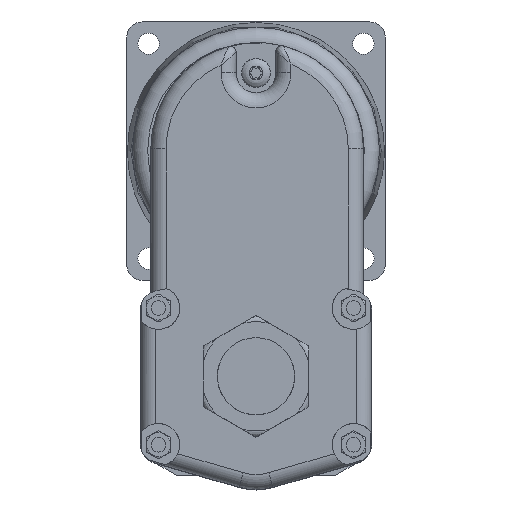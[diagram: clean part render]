
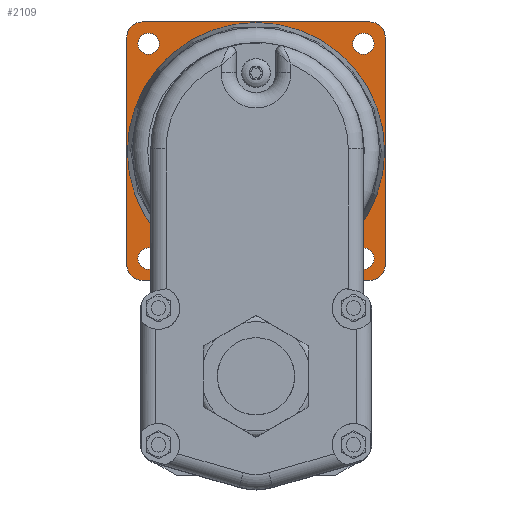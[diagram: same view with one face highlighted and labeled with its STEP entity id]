
A CAD part, top view. The second image highlights one B-rep face of the part: STEP entity #2109.
In plain terms, the highlighted planar face has unit normal (0, 0, 1).
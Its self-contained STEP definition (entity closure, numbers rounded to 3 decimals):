
#449 = VERTEX_POINT ( 'NONE', #4716 ) ;
#450 = VERTEX_POINT ( 'NONE', #4717 ) ;
#451 = VERTEX_POINT ( 'NONE', #4718 ) ;
#452 = VERTEX_POINT ( 'NONE', #4719 ) ;
#453 = VERTEX_POINT ( 'NONE', #4720 ) ;
#454 = VERTEX_POINT ( 'NONE', #4721 ) ;
#455 = VERTEX_POINT ( 'NONE', #4722 ) ;
#456 = VERTEX_POINT ( 'NONE', #4723 ) ;
#927 = EDGE_CURVE ( 'NONE', #11337, #11337, #3699, .T. ) ;
#1533 = EDGE_CURVE ( 'NONE', #453, #454, #8272, .T. ) ;
#1537 = EDGE_CURVE ( 'NONE', #11423, #11423, #8280, .T. ) ;
#1539 = EDGE_CURVE ( 'NONE', #451, #452, #8274, .T. ) ;
#1542 = EDGE_CURVE ( 'NONE', #11431, #11431, #8286, .T. ) ;
#1543 = EDGE_CURVE ( 'NONE', #454, #451, #8288, .T. ) ;
#1544 = EDGE_CURVE ( 'NONE', #452, #450, #8290, .T. ) ;
#1545 = EDGE_CURVE ( 'NONE', #450, #449, #8279, .T. ) ;
#1546 = EDGE_CURVE ( 'NONE', #449, #455, #8292, .T. ) ;
#1547 = EDGE_CURVE ( 'NONE', #455, #456, #8278, .T. ) ;
#1548 = EDGE_CURVE ( 'NONE', #456, #453, #8295, .T. ) ;
#1550 = EDGE_CURVE ( 'NONE', #11433, #11433, #8297, .T. ) ;
#1552 = EDGE_CURVE ( 'NONE', #11435, #11435, #8300, .T. ) ;
#1793 = AXIS2_PLACEMENT_3D ( 'NONE', #4836, #4838, #4839 ) ;
#2109 = ADVANCED_FACE ( 'NONE', ( #9034, #9037, #9041, #9043, #9038, #9036 ), #10866, .F. ) ;
#3136 = ORIENTED_EDGE ( 'NONE', *, *, #1537, .F. ) ;
#3137 = ORIENTED_EDGE ( 'NONE', *, *, #1542, .F. ) ;
#3138 = ORIENTED_EDGE ( 'NONE', *, *, #1533, .T. ) ;
#3139 = ORIENTED_EDGE ( 'NONE', *, *, #1543, .T. ) ;
#3140 = ORIENTED_EDGE ( 'NONE', *, *, #1539, .T. ) ;
#3141 = ORIENTED_EDGE ( 'NONE', *, *, #1544, .T. ) ;
#3142 = ORIENTED_EDGE ( 'NONE', *, *, #1545, .T. ) ;
#3143 = ORIENTED_EDGE ( 'NONE', *, *, #1546, .T. ) ;
#3144 = ORIENTED_EDGE ( 'NONE', *, *, #1547, .T. ) ;
#3145 = ORIENTED_EDGE ( 'NONE', *, *, #1548, .T. ) ;
#3146 = ORIENTED_EDGE ( 'NONE', *, *, #1550, .F. ) ;
#3147 = ORIENTED_EDGE ( 'NONE', *, *, #1552, .F. ) ;
#3148 = ORIENTED_EDGE ( 'NONE', *, *, #927, .T. ) ;
#3699 = CIRCLE ( 'NONE', #1793, 42.331 ) ;
#4716 = CARTESIAN_POINT ( 'NONE',  ( 42.5, 111.9, -11.3 ) ) ;
#4717 = CARTESIAN_POINT ( 'NONE',  ( 42.5, 36.9, -11.3 ) ) ;
#4718 = CARTESIAN_POINT ( 'NONE',  ( -37.5, 31.9, -11.3 ) ) ;
#4719 = CARTESIAN_POINT ( 'NONE',  ( 37.5, 31.9, -11.3 ) ) ;
#4720 = CARTESIAN_POINT ( 'NONE',  ( -42.5, 111.9, -11.3 ) ) ;
#4721 = CARTESIAN_POINT ( 'NONE',  ( -42.5, 36.9, -11.3 ) ) ;
#4722 = CARTESIAN_POINT ( 'NONE',  ( 37.5, 116.9, -11.3 ) ) ;
#4723 = CARTESIAN_POINT ( 'NONE',  ( -37.5, 116.9, -11.3 ) ) ;
#4836 = CARTESIAN_POINT ( 'NONE',  ( 0., 74.4, -11.3 ) ) ;
#4838 = DIRECTION ( 'NONE',  ( 0., 0., -1. ) ) ;
#4839 = DIRECTION ( 'NONE',  ( -1., 0., 0. ) ) ;
#6045 = AXIS2_PLACEMENT_3D ( 'NONE', #7630, #7631, #7632 ) ;
#6048 = AXIS2_PLACEMENT_3D ( 'NONE', #7591, #7592, #7593 ) ;
#6052 = AXIS2_PLACEMENT_3D ( 'NONE', #7605, #7612, #7613 ) ;
#6054 = AXIS2_PLACEMENT_3D ( 'NONE', #7583, #7606, #7607 ) ;
#6055 = AXIS2_PLACEMENT_3D ( 'NONE', #7602, #7609, #7610 ) ;
#6056 = AXIS2_PLACEMENT_3D ( 'NONE', #7608, #7617, #7618 ) ;
#6057 = AXIS2_PLACEMENT_3D ( 'NONE', #7611, #7622, #7623 ) ;
#6058 = AXIS2_PLACEMENT_3D ( 'NONE', #7616, #7626, #7627 ) ;
#6387 = AXIS2_PLACEMENT_3D ( 'NONE', #10864, #10870, #10871 ) ;
#7580 = CARTESIAN_POINT ( 'NONE',  ( -42.5, 116.9, -11.3 ) ) ;
#7581 = DIRECTION ( 'NONE',  ( 0., -1., 0. ) ) ;
#7583 = CARTESIAN_POINT ( 'NONE',  ( -35.355, 39.045, -11.3 ) ) ;
#7591 = CARTESIAN_POINT ( 'NONE',  ( 35.355, 109.755, -11.3 ) ) ;
#7592 = DIRECTION ( 'NONE',  ( 0., 0., 1. ) ) ;
#7593 = DIRECTION ( 'NONE',  ( 1., 0., 0. ) ) ;
#7597 = CARTESIAN_POINT ( 'NONE',  ( -42.5, 31.9, -11.3 ) ) ;
#7598 = DIRECTION ( 'NONE',  ( 1., 0., 0. ) ) ;
#7602 = CARTESIAN_POINT ( 'NONE',  ( -37.5, 36.9, -11.3 ) ) ;
#7605 = CARTESIAN_POINT ( 'NONE',  ( 37.5, 36.9, -11.3 ) ) ;
#7606 = DIRECTION ( 'NONE',  ( 0., 0., 1. ) ) ;
#7607 = DIRECTION ( 'NONE',  ( 1., 0., 0. ) ) ;
#7608 = CARTESIAN_POINT ( 'NONE',  ( 37.5, 111.9, -11.3 ) ) ;
#7609 = DIRECTION ( 'NONE',  ( 0., 0., 1. ) ) ;
#7610 = DIRECTION ( 'NONE',  ( -1., 0., 0. ) ) ;
#7611 = CARTESIAN_POINT ( 'NONE',  ( -37.5, 111.9, -11.3 ) ) ;
#7612 = DIRECTION ( 'NONE',  ( 0., 0., 1. ) ) ;
#7613 = DIRECTION ( 'NONE',  ( -1., 0., 0. ) ) ;
#7614 = CARTESIAN_POINT ( 'NONE',  ( 42.5, 116.9, -11.3 ) ) ;
#7615 = DIRECTION ( 'NONE',  ( 0., 1., 0. ) ) ;
#7616 = CARTESIAN_POINT ( 'NONE',  ( 35.355, 39.045, -11.3 ) ) ;
#7617 = DIRECTION ( 'NONE',  ( 0., 0., 1. ) ) ;
#7618 = DIRECTION ( 'NONE',  ( -1., 0., 0. ) ) ;
#7619 = CARTESIAN_POINT ( 'NONE',  ( -42.5, 116.9, -11.3 ) ) ;
#7620 = DIRECTION ( 'NONE',  ( -1., 0., 0. ) ) ;
#7622 = DIRECTION ( 'NONE',  ( 0., 0., 1. ) ) ;
#7623 = DIRECTION ( 'NONE',  ( -1., 0., 0. ) ) ;
#7626 = DIRECTION ( 'NONE',  ( 0., 0., 1. ) ) ;
#7627 = DIRECTION ( 'NONE',  ( 1., 0., 0. ) ) ;
#7630 = CARTESIAN_POINT ( 'NONE',  ( -35.355, 109.755, -11.3 ) ) ;
#7631 = DIRECTION ( 'NONE',  ( 0., 0., 1. ) ) ;
#7632 = DIRECTION ( 'NONE',  ( 1., 0., 0. ) ) ;
#8272 = LINE ( 'NONE', #7580, #8273 ) ;
#8273 = VECTOR ( 'NONE', #7581, 1000. ) ;
#8274 = LINE ( 'NONE', #7597, #8281 ) ;
#8278 = LINE ( 'NONE', #7619, #8289 ) ;
#8279 = LINE ( 'NONE', #7614, #8287 ) ;
#8280 = CIRCLE ( 'NONE', #6048, 3.5 ) ;
#8281 = VECTOR ( 'NONE', #7598, 1000. ) ;
#8286 = CIRCLE ( 'NONE', #6054, 3.5 ) ;
#8287 = VECTOR ( 'NONE', #7615, 1000. ) ;
#8288 = CIRCLE ( 'NONE', #6055, 5. ) ;
#8289 = VECTOR ( 'NONE', #7620, 1000. ) ;
#8290 = CIRCLE ( 'NONE', #6052, 5. ) ;
#8292 = CIRCLE ( 'NONE', #6056, 5. ) ;
#8295 = CIRCLE ( 'NONE', #6057, 5. ) ;
#8297 = CIRCLE ( 'NONE', #6058, 3.5 ) ;
#8300 = CIRCLE ( 'NONE', #6045, 3.5 ) ;
#9034 = FACE_BOUND ( 'NONE', #9391, .T. ) ;
#9036 = FACE_BOUND ( 'NONE', #9422, .T. ) ;
#9037 = FACE_BOUND ( 'NONE', #9407, .T. ) ;
#9038 = FACE_BOUND ( 'NONE', #9520, .T. ) ;
#9041 = FACE_OUTER_BOUND ( 'NONE', #9401, .T. ) ;
#9043 = FACE_BOUND ( 'NONE', #9411, .T. ) ;
#9391 = EDGE_LOOP ( 'NONE', ( #3136 ) ) ;
#9401 = EDGE_LOOP ( 'NONE', ( #3138, #3139, #3140, #3141, #3142, #3143, #3144, #3145 ) ) ;
#9407 = EDGE_LOOP ( 'NONE', ( #3137 ) ) ;
#9411 = EDGE_LOOP ( 'NONE', ( #3146 ) ) ;
#9422 = EDGE_LOOP ( 'NONE', ( #3148 ) ) ;
#9520 = EDGE_LOOP ( 'NONE', ( #3147 ) ) ;
#10864 = CARTESIAN_POINT ( 'NONE',  ( 42.5, 116.9, -11.3 ) ) ;
#10866 = PLANE ( 'NONE',  #6387 ) ;
#10870 = DIRECTION ( 'NONE',  ( 0., 0., -1. ) ) ;
#10871 = DIRECTION ( 'NONE',  ( -1., 0., 0. ) ) ;
#11337 = VERTEX_POINT ( 'NONE', #11338 ) ;
#11338 = CARTESIAN_POINT ( 'NONE',  ( -42.331, 74.4, -11.3 ) ) ;
#11423 = VERTEX_POINT ( 'NONE', #11424 ) ;
#11424 = CARTESIAN_POINT ( 'NONE',  ( 38.855, 109.755, -11.3 ) ) ;
#11431 = VERTEX_POINT ( 'NONE', #11432 ) ;
#11432 = CARTESIAN_POINT ( 'NONE',  ( -31.855, 39.045, -11.3 ) ) ;
#11433 = VERTEX_POINT ( 'NONE', #11434 ) ;
#11434 = CARTESIAN_POINT ( 'NONE',  ( 38.855, 39.045, -11.3 ) ) ;
#11435 = VERTEX_POINT ( 'NONE', #11436 ) ;
#11436 = CARTESIAN_POINT ( 'NONE',  ( -31.855, 109.755, -11.3 ) ) ;
